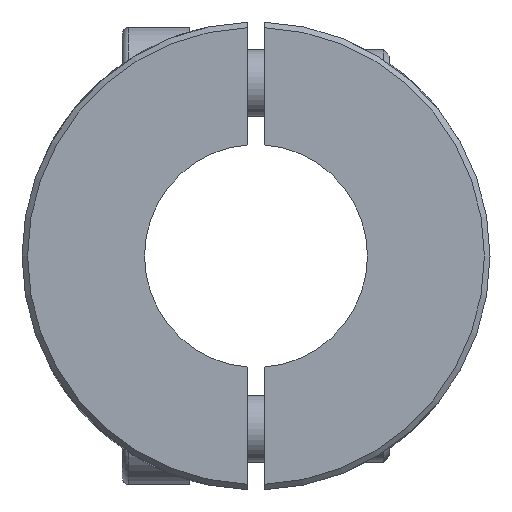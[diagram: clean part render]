
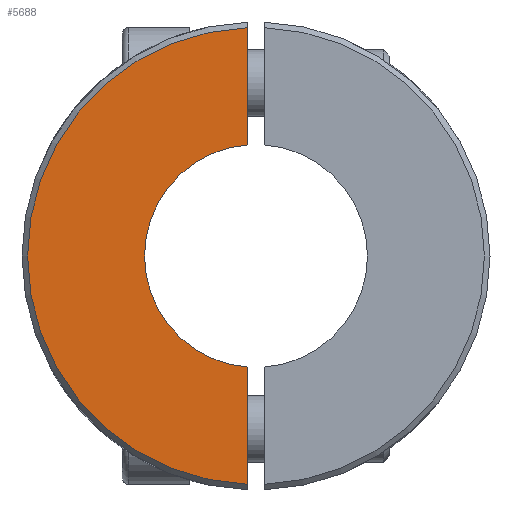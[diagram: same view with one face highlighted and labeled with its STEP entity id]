
A CAD part, left-side view. The second image highlights one B-rep face of the part: STEP entity #5688.
In plain terms, the highlighted planar face has unit normal (-1, 0, 0).
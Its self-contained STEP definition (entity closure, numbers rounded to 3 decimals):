
#615 = VERTEX_POINT ( 'NONE', #9445 ) ;
#704 = VECTOR ( 'NONE', #10007, 1000. ) ;
#816 = PLANE ( 'NONE',  #5423 ) ;
#979 = DIRECTION ( 'NONE',  ( 0., 1., 0. ) ) ;
#1165 = LINE ( 'NONE', #4469, #704 ) ;
#1242 = EDGE_CURVE ( 'NONE', #3204, #615, #1165, .T. ) ;
#1303 = ORIENTED_EDGE ( 'NONE', *, *, #1242, .T. ) ;
#1677 = ORIENTED_EDGE ( 'NONE', *, *, #9911, .T. ) ;
#1706 = CARTESIAN_POINT ( 'NONE',  ( -32.5, 0.75, -20.486 ) ) ;
#1812 = CARTESIAN_POINT ( 'NONE',  ( -32.5, 0.75, -9.972 ) ) ;
#1850 = DIRECTION ( 'NONE',  ( -1., 0., 0. ) ) ;
#2029 = AXIS2_PLACEMENT_3D ( 'NONE', #10061, #1850, #2881 ) ;
#2382 = EDGE_CURVE ( 'NONE', #615, #9858, #3942, .T. ) ;
#2481 = DIRECTION ( 'NONE',  ( 0., 0., 1. ) ) ;
#2600 = DIRECTION ( 'NONE',  ( 1., 0., 0. ) ) ;
#2720 = DIRECTION ( 'NONE',  ( 0., 0., 1. ) ) ;
#2881 = DIRECTION ( 'NONE',  ( 0., 0., -1. ) ) ;
#3204 = VERTEX_POINT ( 'NONE', #3292 ) ;
#3292 = CARTESIAN_POINT ( 'NONE',  ( -32.5, 0.75, 9.972 ) ) ;
#3603 = DIRECTION ( 'NONE',  ( -1., 0., 0. ) ) ;
#3942 = CIRCLE ( 'NONE', #2029, 20.5 ) ;
#4274 = CARTESIAN_POINT ( 'NONE',  ( -32.5, 0.75, -21. ) ) ;
#4469 = CARTESIAN_POINT ( 'NONE',  ( -32.5, 0.75, -18. ) ) ;
#5211 = ORIENTED_EDGE ( 'NONE', *, *, #2382, .T. ) ;
#5423 = AXIS2_PLACEMENT_3D ( 'NONE', #9988, #2600, #979 ) ;
#5426 = VECTOR ( 'NONE', #2481, 1000. ) ;
#5452 = AXIS2_PLACEMENT_3D ( 'NONE', #10004, #3603, #2720 ) ;
#5688 = ADVANCED_FACE ( 'NONE', ( #7527 ), #816, .F. ) ;
#5818 = CIRCLE ( 'NONE', #5452, 10. ) ;
#6167 = EDGE_LOOP ( 'NONE', ( #1303, #5211, #1677, #9815 ) ) ;
#6302 = VERTEX_POINT ( 'NONE', #1812 ) ;
#6963 = EDGE_CURVE ( 'NONE', #3204, #6302, #5818, .T. ) ;
#7405 = LINE ( 'NONE', #4274, #5426 ) ;
#7527 = FACE_OUTER_BOUND ( 'NONE', #6167, .T. ) ;
#9445 = CARTESIAN_POINT ( 'NONE',  ( -32.5, 0.75, 20.486 ) ) ;
#9815 = ORIENTED_EDGE ( 'NONE', *, *, #6963, .F. ) ;
#9858 = VERTEX_POINT ( 'NONE', #1706 ) ;
#9911 = EDGE_CURVE ( 'NONE', #9858, #6302, #7405, .T. ) ;
#9988 = CARTESIAN_POINT ( 'NONE',  ( -32.5, 10., 0. ) ) ;
#10004 = CARTESIAN_POINT ( 'NONE',  ( -32.5, 0., 0. ) ) ;
#10007 = DIRECTION ( 'NONE',  ( 0., 0., 1. ) ) ;
#10061 = CARTESIAN_POINT ( 'NONE',  ( -32.5, 0., 0. ) ) ;
